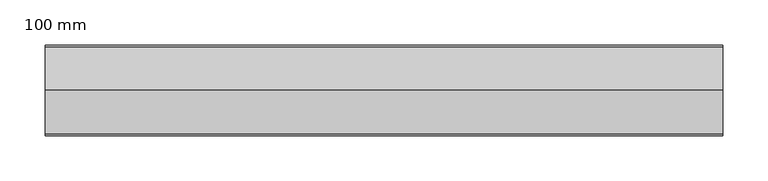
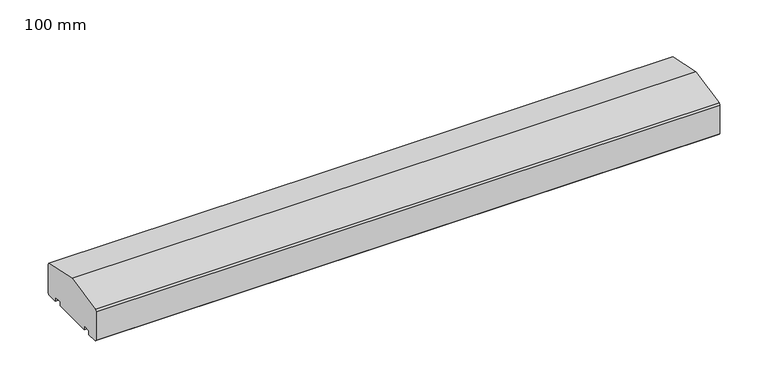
"""IFC4 building model written with IfcOpenShell, lengths in millimetres: proxy geometry, 400_35_NS_afdekker_tweezijdig_afwaterend : 100 mm."""

from ifc_helpers import new_model, si_unit, frame, origin, place, context, project, spatial, polyline, outline, extrude, source, transform, mapped, element, save


def proxy_100_mm_7d0b37c2(model_context):
    return source(origin(), model_context, "Body", "SweptSolid", [
        extrude(outline(polyline([(100.0, 2.0), (98.0, 0.0), (85.0, 0.0), (85.0, 5.0), (75.0, 5.0), (75.0, 0.0), (25.0, 0.0), (25.0, 5.0), (15.0, 5.0), (15.0, 0.0), (2.0, 0.0), (0.0, 2.0), (0.0, 38.0), (2.0, 40.0), (50.0, 50.0), (98.0, 40.0), (100.0, 38.0), (100.0, 2.0)])), frame((-375.0, 0.0, 0.0), z_axis=(1.0, 0.0, 0.0), x_axis=(0.0, 1.0, 0.0)), (0.0, 0.0, 1.0), 750.0),
    ])


if __name__ == "__main__":
    model = new_model("IFC4")
    model_context = context("Model", 3, world=origin())
    ifc_project = project(units=[si_unit("LENGTHUNIT", "METRE", prefix="MILLI")], contexts=[model_context])
    site = spatial("IfcSite", under=ifc_project)
    building = spatial("IfcBuilding", under=site)
    placement = place(None, origin())
    proxy_100_mm_shape = proxy_100_mm_7d0b37c2(model_context)
    element("IfcBuildingElementProxy", 1, Name="400_35_NS_afdekker_tweezijdig_afwaterend : 100 mm", ObjectType="400_35_NS_afdekker_tweezijdig_afwaterend : 100 mm", at=placement, inside=building, context=model_context, shape_type="MappedRepresentation", body=[
        mapped(proxy_100_mm_shape, transform((0.0, 0.0, 0.0), x_axis=(1.0, 0.0, 0.0), y_axis=(0.0, 1.0, 0.0), z_axis=(0.0, 0.0, 1.0))),
    ])
    save(model, "model.ifc")
